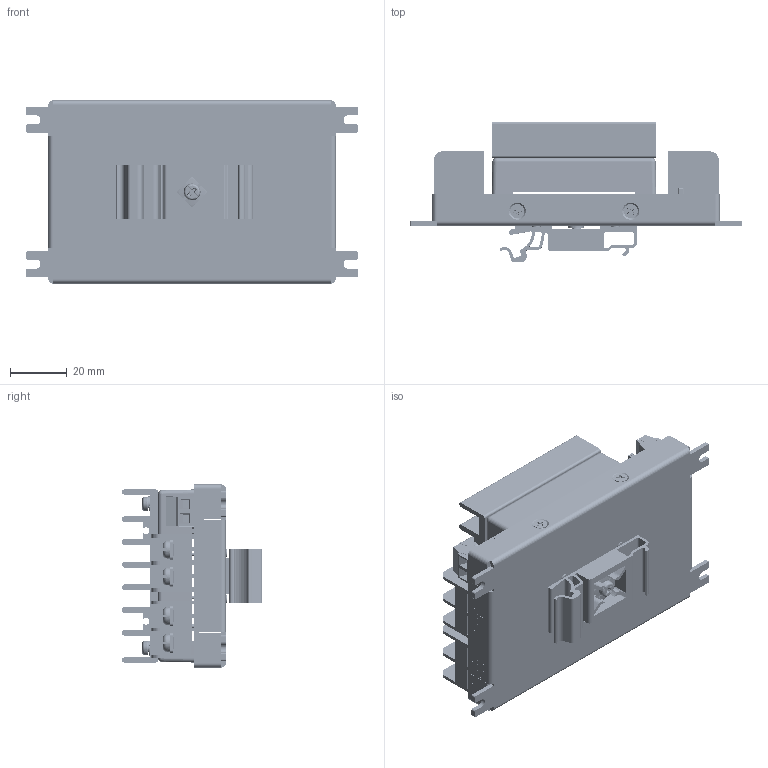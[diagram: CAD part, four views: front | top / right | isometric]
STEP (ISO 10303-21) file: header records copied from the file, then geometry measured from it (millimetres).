
FILE_DESCRIPTION (( 'STEP AP214' ), '1' );
FILE_NAME ('HB TYPE(DIN+M-C091) SPEC-1021115.STEP', '2018-03-28T08:45:58', ( 'cincon' ), ( '' ), 'SwSTEP 2.0', 'SolidWorks 2008', '' );
FILE_SCHEMA (( 'AUTOMOTIVE_DESIGN' ));
Length unit declared in the file: millimetre
Products named in the file (19): CHB100W(G5122441513)990813; M3x6mm圓頭十字螺絲SMP+W; CHB100W組合件 990813; HB TYPE(DIN+M-C091) SPEC-1021115; 平頭十字螺絲 M3x5mm(M-H003-00-S)G75A1100662_預設; CHB  鋁板CASE(DIN RAIL)-1020704_預設; CHB100W內組件示意圖990813; PCB Terminal P9.5-2PIN; ELK508V-03P(DINKLE)-1000221; ELK508V-02P; CHB固定片L型-1020704_預設; CMJ-20ABL_預設; Header 2x2PIN; M3x10mm圓頭十字螺絲SMP+W; PCB Terminal P9.5-4PIN; CHB PCB-1020322_預設; CHB SERIES 鋁擠型散熱片(G6610120402)_預設; M3.5x8mm圓頭十字螺絲+方型墊片; DIN CLIP PLASTIC-981013_預設
Assembly tree (31 placements, depth 3):
  HB TYPE(DIN+M-C091) SPEC-1021115
    M3x6mm圓頭十字螺絲SMP+W  x4
    CHB100W組合件 990813
      CHB100W內組件示意圖990813
      CHB100W(G5122441513)990813
    平頭十字螺絲 M3x5mm(M-H003-00-S)G75A1100662_預設  x4
    CHB  鋁板CASE(DIN RAIL)-1020704_預設
    DIN CLIP PLASTIC-981013_預設
    M3x10mm圓頭十字螺絲SMP+W  x4
    CHB PCB-1020322_預設
    PCB Terminal P9.5-2PIN  x2
    CHB固定片L型-1020704_預設  x2
    M3.5x8mm圓頭十字螺絲+方型墊片
    CMJ-20ABL_預設  x2
    ELK508V-02P
    CHB SERIES 鋁擠型散熱片(G6610120402)_預設
    Header 2x2PIN  x2
    ELK508V-03P(DINKLE)-1000221
    PCB Terminal P9.5-4PIN
Bounding box: 117 x 49.4 x 64.6 mm (x, y, z)
Volume: 106441.7 mm3; surface area: 95184.4 mm2
Topology: 39 solids, 39 shells, 3009 faces, 8293 edges, 5467 vertices
Faces by surface type: plane 1587, cylinder 1080, cone 147, bspline 127, torus 62, sphere 6
Entity records: 91572 total; most frequent: CARTESIAN_POINT 35644, ORIENTED_EDGE 12010, DIRECTION 10374, EDGE_CURVE 6005, VECTOR 4024, LINE 4024, VERTEX_POINT 3949, AXIS2_PLACEMENT_3D 3175
